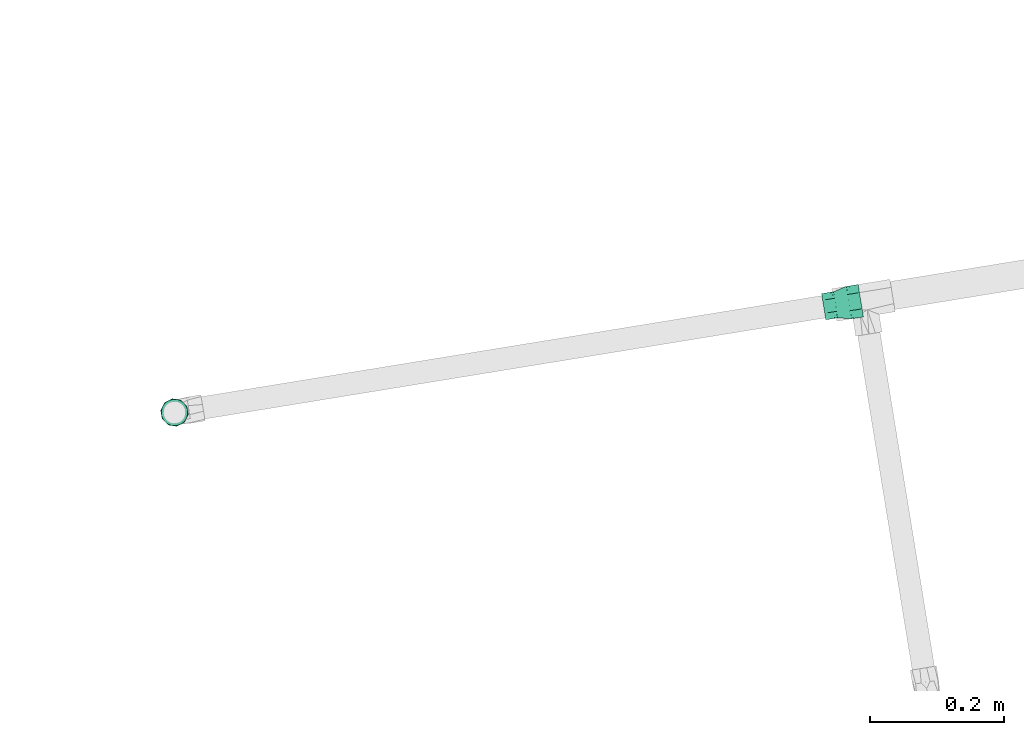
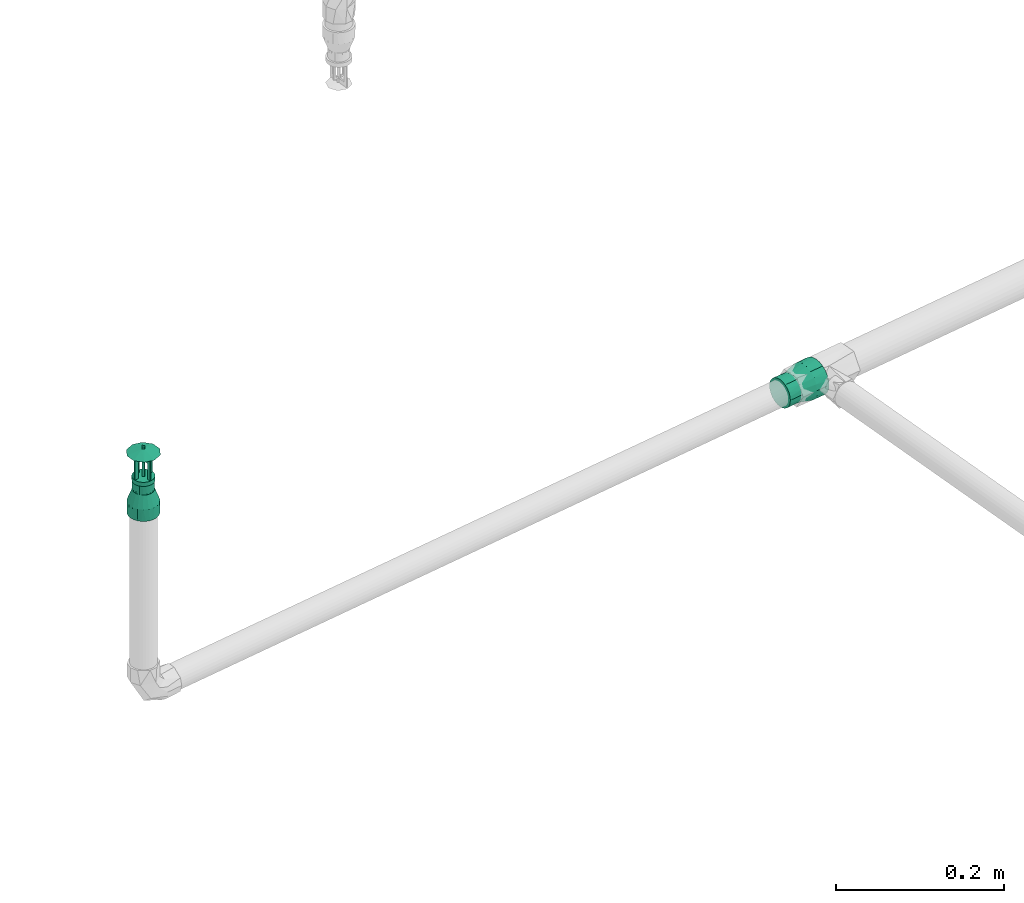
# One storey, part 31 of 46: 2 flow fittings, 1 flow terminal.
"""IFC2X3 building model written with IfcOpenShell, lengths in millimetres."""

from ifc_helpers import new_model, entity, si_unit, converted_unit, derived_unit, direction, frame, origin, origin_with_axes, place, context, subcontext, project, spatial, faceted_brep, source, transform, mapped, material, type_object, element, save


model = new_model("IFC2X3")

# Units and contexts
model_context = context("Model", 3, precision=0.01, world=origin(), true_north=direction((6.12323399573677e-17, 1.0)))
plan_context = context("Plan", 3, precision=1e-05, world=origin_with_axes())
body_context = subcontext(model_context, "Body", "Model", "MODEL_VIEW")
ifc_project = project(units=[converted_unit("PLANEANGLEUNIT", "DEGREE", entity("IfcPositiveLengthMeasure", 0.0174532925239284), si_unit("PLANEANGLEUNIT", "RADIAN"), dimensions=[0, 0, 0, 0, 0, 0, 0]), si_unit("AREAUNIT", "SQUARE_METRE"), si_unit("LENGTHUNIT", "METRE", prefix="MILLI"), si_unit("MASSUNIT", "GRAM", prefix="KILO"), si_unit("POWERUNIT", "WATT"), si_unit("PRESSUREUNIT", "PASCAL", prefix="KILO"), si_unit("FORCEUNIT", "NEWTON", prefix="KILO"), si_unit("ELECTRICVOLTAGEUNIT", "VOLT"), si_unit("ELECTRICCURRENTUNIT", "AMPERE"), si_unit("THERMODYNAMICTEMPERATUREUNIT", "DEGREE_CELSIUS"), si_unit("TIMEUNIT", "SECOND"), si_unit("VOLUMEUNIT", "CUBIC_METRE"), derived_unit("LINEARVELOCITYUNIT", [(si_unit("LENGTHUNIT", "METRE"), 1), (si_unit("TIMEUNIT", "SECOND"), -1)]), derived_unit("VOLUMETRICFLOWRATEUNIT", [(si_unit("VOLUMEUNIT", "CUBIC_METRE"), 1), (si_unit("TIMEUNIT", "SECOND"), -1)]), derived_unit("THERMALTRANSMITTANCEUNIT", [(si_unit("POWERUNIT", "WATT"), 1), (si_unit("THERMODYNAMICTEMPERATUREUNIT", "KELVIN"), -1), (si_unit("AREAUNIT", "SQUARE_METRE"), -1)]), derived_unit("SOUNDPRESSUREUNIT", [(si_unit("PRESSUREUNIT", "PASCAL"), 1)])], contexts=[model_context, plan_context])

# Site, building, storey
site_placement = place(None, frame((-3.09682673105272e-06, 1.93776733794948e-05, 0.0), z_axis=(0.0, 0.0, 1.0), x_axis=(-0.160806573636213, 0.986985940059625, 0.0)))
site = spatial("IfcSite", under=ifc_project, at=site_placement, Name="Default", CompositionType="ELEMENT")
building_placement = place(site_placement, frame((0.0, 0.0, 0.0), z_axis=(0.0, 0.0, 1.0), x_axis=(1.0, -2.77555756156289e-17, 0.0)))
building = spatial("IfcBuilding", under=site, at=building_placement, Name="Bygning (endres i Project Information)", CompositionType="ELEMENT")
storey_placement = place(building_placement, frame((0.0, 0.0, 51360.0000000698), z_axis=(0.0, 0.0, 1.0), x_axis=(1.0, -2.77555756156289e-17, 0.0)))
storey = spatial("IfcBuildingStorey", under=building, at=storey_placement, Name="H01-Nivå D+0,36", CompositionType="ELEMENT", Elevation=51360.0000000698)

# Flow fittings
ifc_material = material(Name="3320.001")
pipe_fitting_type_1 = type_object("IfcPipeFittingType", Name="RS_53_PIF_UN_Reducing-Socket-EN10241_MC_gen:RS_53_PIF_UN_Reducing-Socket-EN10241_MC_gen", PredefinedType="NOTDEFINED", material=ifc_material)
shared_shape_1 = source(origin(), body_context, "Body", "Brep", [
    faceted_brep([(0.0, 3.49405710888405, 13.0399986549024), (0.0, 6.75000000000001, 11.6913429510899), (0.0, 9.5459415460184, 9.54594154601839), (0.0, 11.6913429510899, 6.74999999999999), (0.0, 13.0399986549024, 3.49405710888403), (0.0, 13.5, 0.0), (0.0, 13.0399986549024, -3.49405710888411), (0.0, 11.6913429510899, -6.75000000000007), (0.0, 9.54594154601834, -9.54594154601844), (0.0, 6.74999999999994, -11.69134295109), (0.0, 3.49405710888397, -13.0399986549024), (0.0, 0.0, -13.5), (0.0, -3.49405710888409, -13.0399986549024), (0.0, -6.75000000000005, -11.6913429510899), (0.0, -9.54594154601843, -9.54594154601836), (0.0, -11.6913429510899, -6.74999999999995), (0.0, -13.0399986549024, -3.49405710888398), (0.0, -13.5, 0.0), (0.0, -13.0399986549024, 3.49405710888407), (0.0, -11.6913429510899, 6.75000000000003), (0.0, -9.54594154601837, 9.54594154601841), (0.0, -6.74999999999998, 11.6913429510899), (0.0, -3.49405710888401, 13.0399986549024), (0.0, 0.0, 13.5), (17.0, -4.54589529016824, -12.4935366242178), (17.0, -10.3411162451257, -8.67820919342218), (17.0, -11.5134189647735, -6.64791735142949), (17.0, -12.6857216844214, -4.61762550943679), (17.0, -6.74902240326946, -11.6919073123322), (17.0, -8.54506932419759, -10.1850582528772), (17.0, -13.0928608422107, -2.30881275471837), (17.0, -13.5, 0.0), (17.0, -2.34276817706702, -13.2951659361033), (17.0, 2.34610313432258, -13.2945778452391), (17.0, 0.00166747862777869, -13.2948718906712), (17.0, 8.54762393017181, -10.1829144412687), (17.0, 4.5490290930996, -12.4923959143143), (17.0, 6.75195505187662, -11.6902139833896), (17.0, 12.6868795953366, -4.61444320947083), (17.0, 11.5150862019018, -6.6450290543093), (17.0, 10.343292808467, -8.67561489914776), (17.0, 13.5, 0.0), (17.0, 10.3432928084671, 8.67561489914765), (17.0, 11.5150862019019, 6.64502905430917), (17.0, 12.6868795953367, 4.61444320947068), (17.0, 6.75195505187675, 11.6902139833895), (17.0, 8.54762393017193, 10.1829144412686), (17.0, 2.34610313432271, 13.2945778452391), (17.0, 4.54902909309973, 12.4923959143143), (17.0, -2.3427681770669, 13.2951659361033), (17.0, 0.00166747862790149, 13.2948718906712), (17.0, -12.6857216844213, 4.61762550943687), (17.0, -8.5450693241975, 10.1850582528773), (17.0, -13.0928608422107, 2.30881275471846), (17.0, -11.5134189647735, 6.64791735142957), (17.0, -10.3411162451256, 8.67820919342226), (17.0, -4.54589529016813, 12.4935366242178), (17.0, -6.74902240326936, 11.6919073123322), (34.0, -18.5588149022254, -6.75521201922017), (34.0, 18.5598439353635, -6.75238425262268), (34.0, -9.87413131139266, -17.104503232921), (34.0, -3.42823440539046, -19.4501853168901), (34.0, 0.00148173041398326, -19.4499240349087), (34.0, -6.65118285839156, -18.2773442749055), (34.0, -12.5015396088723, -14.9000353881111), (34.0, -15.1289479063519, -12.6955675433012), (34.0, -16.8438814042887, -9.72538978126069), (34.0, -19.1648351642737, -3.3184704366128), (34.0, 9.87673730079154, -17.1029985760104), (34.0, 15.1308820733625, -12.6932622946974), (34.0, 3.43119786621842, -19.4496627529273), (34.0, 6.65396758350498, -18.2763306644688), (34.0, 16.845363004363, -9.72282327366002), (34.0, 12.503809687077, -14.8981304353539), (34.0, 19.7500000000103, 0.0), (34.0, -19.7499999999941, 0.0), (34.0, -19.1544074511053, 3.37760600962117), (34.0, -6.65118285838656, 18.2773442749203), (34.0, -12.5015396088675, 14.9000353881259), (34.0, 3.43119786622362, 19.4496627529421), (34.0, 6.65396758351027, 18.2763306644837), (34.0, 9.87673730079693, 17.1029985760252), (34.0, 12.5038096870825, 14.8981304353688), (34.0, 15.1308820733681, 12.6932622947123), (34.0, 16.8453630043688, 9.72282327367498), (34.0, 18.5598439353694, 6.75238425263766), (34.0, -16.843881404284, 9.7253897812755), (34.0, -18.5588149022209, 6.75521201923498), (34.0, -3.42823440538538, 19.4501853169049), (34.0, 0.00148173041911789, 19.4499240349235), (34.0, -9.87413131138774, 17.1045032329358), (34.0, -15.1289479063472, 12.695567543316), (51.0, 5.11167614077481, -19.0770350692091), (51.0, 9.87500000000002, -17.1040017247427), (51.0, 13.9653589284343, -13.9653589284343), (51.0, 17.1040017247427, -9.87499999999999), (51.0, 19.0770350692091, -5.11167614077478), (51.0, 19.75, 0.0), (51.0, 19.0770350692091, 5.1116761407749), (51.0, 17.1040017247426, 9.8750000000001), (51.0, 13.9653589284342, 13.9653589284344), (51.0, 9.87499999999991, 17.1040017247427), (51.0, 5.11167614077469, 19.0770350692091), (51.0, 0.0, 19.75), (51.0, -5.11167614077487, 19.0770350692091), (51.0, -9.87500000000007, 17.1040017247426), (51.0, -13.9653589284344, 13.9653589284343), (51.0, -17.1040017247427, 9.87499999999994), (51.0, -19.0770350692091, 5.11167614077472), (51.0, -19.75, 0.0), (51.0, -19.0770350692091, -5.11167614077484), (51.0, -17.1040017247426, -9.87500000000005), (51.0, -13.9653589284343, -13.9653589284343), (51.0, -9.87499999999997, -17.1040017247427), (51.0, -5.11167614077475, -19.0770350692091), (51.0, 0.0, -19.75)], [[[0, 1, 2, 3, 4, 5, 6, 7, 8, 9, 10, 11, 12, 13, 14, 15, 16, 17, 18, 19, 20, 21, 22, 23]], [[24, 13, 12]], [[15, 14, 25]], [[15, 25, 26, 27]], [[28, 29, 13]], [[16, 27, 30]], [[30, 31, 17]], [[30, 17, 16]], [[12, 32, 24]], [[25, 14, 29]], [[11, 33, 34, 32]], [[35, 9, 8]], [[13, 29, 14]], [[24, 28, 13]], [[33, 11, 10]], [[36, 9, 37]], [[7, 38, 39, 40]], [[9, 36, 10]], [[7, 6, 38]], [[8, 40, 35]], [[33, 10, 36]], [[11, 32, 12]], [[7, 40, 8]], [[6, 41, 38]], [[15, 27, 16]], [[6, 5, 41]], [[35, 37, 9]], [[41, 5, 4]], [[3, 2, 42]], [[3, 42, 43, 44]], [[45, 46, 1]], [[44, 41, 4]], [[0, 47, 48]], [[42, 2, 46]], [[23, 49, 50, 47]], [[1, 46, 2]], [[48, 1, 0]], [[48, 45, 1]], [[3, 44, 4]], [[22, 49, 23]], [[19, 18, 51]], [[52, 21, 20]], [[17, 53, 18]], [[19, 51, 54, 55]], [[17, 31, 53]], [[56, 49, 22]], [[21, 57, 56]], [[19, 55, 20]], [[21, 56, 22]], [[20, 55, 52]], [[23, 47, 0]], [[53, 51, 18]], [[52, 57, 21]], [[58, 30, 27]], [[38, 59, 39]], [[28, 60, 29]], [[61, 32, 62]], [[63, 60, 28]], [[64, 65, 25]], [[64, 25, 29]], [[66, 58, 27]], [[66, 27, 26]], [[67, 31, 30]], [[26, 65, 66]], [[62, 32, 34]], [[25, 65, 26]], [[37, 68, 36]], [[29, 60, 64]], [[40, 69, 35]], [[34, 33, 70]], [[71, 70, 33]], [[71, 33, 36]], [[34, 70, 62]], [[72, 69, 40]], [[73, 68, 37]], [[74, 38, 41]], [[31, 67, 75]], [[39, 59, 72]], [[32, 61, 24]], [[35, 69, 73]], [[74, 59, 38]], [[58, 67, 30]], [[63, 28, 24]], [[24, 61, 63]], [[73, 37, 35]], [[36, 68, 71]], [[72, 40, 39]], [[41, 44, 74]], [[31, 76, 53]], [[57, 77, 56]], [[55, 78, 52]], [[47, 79, 80]], [[45, 81, 82]], [[46, 83, 42]], [[42, 83, 84]], [[43, 85, 44]], [[74, 44, 85]], [[46, 82, 83]], [[84, 85, 43]], [[51, 86, 54]], [[87, 51, 53]], [[81, 48, 80]], [[48, 81, 45]], [[49, 88, 89]], [[77, 57, 90]], [[56, 88, 49]], [[50, 79, 47]], [[86, 51, 87]], [[78, 55, 91]], [[75, 76, 31]], [[47, 80, 48]], [[77, 88, 56]], [[49, 89, 50]], [[86, 91, 54]], [[53, 76, 87]], [[45, 82, 46]], [[90, 52, 78]], [[42, 84, 43]], [[52, 90, 57]], [[50, 89, 79]], [[54, 91, 55]], [[92, 93, 94, 95, 96, 97, 98, 99, 100, 101, 102, 103, 104, 105, 106, 107, 108, 109, 110, 111, 112, 113, 114, 115]], [[74, 97, 96]], [[95, 94, 69]], [[95, 69, 72, 59]], [[68, 73, 93]], [[59, 74, 96]], [[92, 70, 71]], [[69, 94, 73]], [[115, 61, 62, 70]], [[93, 73, 94]], [[61, 115, 114]], [[111, 65, 112]], [[63, 113, 60]], [[95, 59, 96]], [[71, 68, 93]], [[64, 60, 113]], [[109, 75, 67]], [[113, 63, 114]], [[112, 65, 64]], [[61, 114, 63]], [[71, 93, 92]], [[109, 67, 110]], [[58, 111, 110]], [[110, 67, 58]], [[64, 113, 112]], [[66, 65, 111, 58]], [[115, 70, 92]], [[77, 105, 104]], [[107, 106, 91]], [[107, 91, 86, 87]], [[90, 78, 105]], [[108, 87, 76]], [[76, 109, 108]], [[107, 87, 108]], [[104, 88, 77]], [[91, 106, 78]], [[103, 79, 89, 88]], [[77, 90, 105]], [[105, 78, 106]], [[76, 75, 109]], [[79, 103, 102]], [[80, 101, 81]], [[99, 85, 84, 83]], [[101, 80, 102]], [[99, 98, 85]], [[100, 83, 82]], [[79, 102, 80]], [[99, 83, 100]], [[82, 81, 101]], [[98, 74, 85]], [[98, 97, 74]], [[103, 88, 104]], [[82, 101, 100]]]),
])
flow_fitting_1_placement = place(storey_placement, frame((1003788.36764383, -343069.023010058, 3770.81211897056), z_axis=(2.77555756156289e-17, 1.0, 0.0), x_axis=(0.0, 0.0, -1.0)))
element("IfcFlowFitting", 1, at=flow_fitting_1_placement, inside=storey, type_object=pipe_fitting_type_1, material=ifc_material, Name="RS_53_PIF_UN_Reducing-Socket-EN10241_MC_gen:RS_53_PIF_UN_Reducing-Socket-EN10241_MC_gen", ObjectType="RS_53_PIF_UN_Reducing-Socket-EN10241_MC_gen:RS_53_PIF_UN_Reducing-Socket-EN10241_MC_gen", context=body_context, shape_type="MappedRepresentation", body=[
    mapped(shared_shape_1, transform((0.0, 0.0, 0.0), scale=1.0)),
])
pipe_fitting_type_2 = type_object("IfcPipeFittingType", Name="RS_53_PIF_UN_Reducing-Socket-EN10241_MC_gen:RS_53_PIF_UN_Reducing-Socket-EN10241_MC_gen", PredefinedType="NOTDEFINED", material=ifc_material)
shared_shape_2 = source(origin(), body_context, "Body", "Brep", [
    faceted_brep([(0.0, 5.11167614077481, 19.0770350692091), (0.0, 9.87500000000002, 17.1040017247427), (0.0, 13.9653589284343, 13.9653589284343), (0.0, 17.1040017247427, 9.87499999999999), (0.0, 19.0770350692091, 5.11167614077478), (0.0, 19.75, 0.0), (0.0, 19.0770350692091, -5.1116761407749), (0.0, 17.1040017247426, -9.8750000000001), (0.0, 13.9653589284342, -13.9653589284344), (0.0, 9.87499999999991, -17.1040017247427), (0.0, 5.11167614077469, -19.0770350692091), (0.0, 0.0, -19.75), (0.0, -5.11167614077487, -19.0770350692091), (0.0, -9.87500000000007, -17.1040017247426), (0.0, -13.9653589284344, -13.9653589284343), (0.0, -17.1040017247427, -9.87499999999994), (0.0, -19.0770350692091, -5.11167614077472), (0.0, -19.75, 0.0), (0.0, -19.0770350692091, 5.11167614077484), (0.0, -17.1040017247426, 9.87500000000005), (0.0, -13.9653589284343, 13.9653589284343), (0.0, -9.87499999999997, 17.1040017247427), (0.0, -5.11167614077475, 19.0770350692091), (0.0, 0.0, 19.75), (18.6666666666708, -6.65147917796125, -18.2772448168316), (18.6666666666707, -15.1290644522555, -12.6954286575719), (18.6666666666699, -16.8439551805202, -9.72527774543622), (18.6666666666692, -18.5588459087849, -6.75512683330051), (18.6666666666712, -9.87436684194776, -17.1043672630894), (18.6666666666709, -12.5017156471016, -14.8998979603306), (18.6666666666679, -19.1544229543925, -3.37756341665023), (18.6666666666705, -3.42859151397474, -19.4501223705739), (18.6666666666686, 3.43075149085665, -19.4497414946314), (18.6666666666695, 0.00107998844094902, -19.4499319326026), (18.6666666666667, -19.75, 0.0), (18.6666666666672, 6.65350888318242, -18.2765060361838), (18.6666666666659, 9.87626627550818, -17.1032705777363), (18.6666666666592, 18.5595959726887, -6.75306577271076), (18.6666666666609, 16.8450350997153, -9.72340711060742), (18.6666666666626, 15.1304742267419, -12.6937484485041), (18.6666666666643, 12.503370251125, -14.8985095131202), (18.6666666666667, 19.75, 0.0), (18.6666666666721, 15.1304742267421, 12.6937484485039), (18.6666666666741, 16.8450350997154, 9.72340711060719), (18.6666666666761, 18.5595959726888, 6.7530657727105), (18.6666666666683, 9.8762662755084, 17.1032705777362), (18.6666666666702, 12.5033702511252, 14.89850951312), (18.6666666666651, 3.43075149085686, 19.4497414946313), (18.6666666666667, 6.65350888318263, 18.2765060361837), (18.6666666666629, -3.42859151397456, 19.450122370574), (18.666666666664, 0.00107998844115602, 19.4499319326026), (18.6666666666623, -12.5017156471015, 14.8998979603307), (18.6666666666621, -9.87436684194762, 17.1043672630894), (18.6666666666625, -6.65147917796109, 18.2772448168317), (18.6666666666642, -18.5588459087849, 6.75512683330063), (18.6666666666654, -19.1544229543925, 3.37756341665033), (18.6666666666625, -15.1290644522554, 12.695428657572), (18.6666666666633, -16.8439551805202, 9.72527774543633), (37.3333333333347, -23.7125607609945, -4.46565710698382), (37.3333333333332, 4.25560674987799, -24.127573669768), (37.3333333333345, 0.00110376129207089, -24.1277682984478), (37.3333333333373, -15.5085607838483, -18.483337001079), (37.3333333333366, -20.8950763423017, -12.0642027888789), (37.3333333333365, -8.25137606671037, -22.6729794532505), (37.3333333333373, -12.2493529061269, -21.2179959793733), (37.3333333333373, -18.7677686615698, -15.7486780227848), (37.3333333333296, 12.2512941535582, -21.2168751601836), (37.3333333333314, 8.2534504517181, -22.6722244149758), (37.3333333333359, -23.0223840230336, -8.37972755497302), (37.3333333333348, -23.7611920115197, -4.18986377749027), (37.3333333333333, -24.4999999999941, 0.0), (37.3333333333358, -4.25339922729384, -24.1279629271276), (37.3333333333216, 23.0231506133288, -8.37762113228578), (37.3333333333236, 20.8961800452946, -12.0622909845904), (37.3333333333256, 18.7692094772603, -15.7469608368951), (37.3333333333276, 15.5102518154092, -18.4819179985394), (37.3333333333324, 24.5000000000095, 0.0), (37.3333333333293, -18.767768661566, 15.7486780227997), (37.3333333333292, -15.5085607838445, 18.4833370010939), (37.3333333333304, -4.25339922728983, 24.1279629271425), (37.3333333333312, -23.0223840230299, 8.37972755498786), (37.3333333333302, -20.8950763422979, 12.0642027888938), (37.3333333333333, 4.2556067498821, 24.1275736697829), (37.3333333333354, 8.25345045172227, 22.6722244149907), (37.3333333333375, 12.2512941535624, 21.2168751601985), (37.3333333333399, 15.5102518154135, 18.4819179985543), (37.3333333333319, -23.7611920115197, 4.18986377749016), (37.3333333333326, -23.7125607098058, 4.46565739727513), (37.3333333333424, 18.7692094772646, 15.74696083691), (37.3333333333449, 20.896180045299, 12.0622909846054), (37.3333333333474, 23.0231506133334, 8.37762113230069), (37.3333333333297, -8.25137606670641, 22.6729794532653), (37.333333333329, -12.249352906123, 21.2179959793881), (37.3333333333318, 0.00110376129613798, 24.1277682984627), (56.0, 0.0, -24.5), (56.0, 6.34106660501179, -23.6651827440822), (56.0, 12.25, -21.2176223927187), (56.0, 17.3241161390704, -17.3241161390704), (56.0, 21.2176223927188, -12.25), (56.0, 23.6651827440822, -6.34106660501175), (56.0, 24.5, 0.0), (56.0, 23.6651827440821, 6.34106660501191), (56.0, 21.2176223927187, 12.2500000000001), (56.0, 17.3241161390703, 17.3241161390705), (56.0, 12.2499999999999, 21.2176223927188), (56.0, 6.34106660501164, 23.6651827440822), (56.0, 0.0, 24.5), (56.0, -6.34106660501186, 23.6651827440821), (56.0, -12.2500000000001, 21.2176223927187), (56.0, -17.3241161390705, 17.3241161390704), (56.0, -21.2176223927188, 12.2499999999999), (56.0, -23.6651827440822, 6.34106660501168), (56.0, -24.5, 0.0), (56.0, -23.6651827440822, -6.34106660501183), (56.0, -21.2176223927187, -12.2500000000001), (56.0, -17.3241161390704, -17.3241161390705), (56.0, -12.25, -21.2176223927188), (56.0, -6.34106660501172, -23.6651827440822)], [[[0, 1, 2, 3, 4, 5, 6, 7, 8, 9, 10, 11, 12, 13, 14, 15, 16, 17, 18, 19, 20, 21, 22, 23]], [[24, 13, 12]], [[15, 14, 25]], [[15, 25, 26, 27]], [[28, 29, 13]], [[16, 27, 30]], [[30, 17, 16]], [[15, 27, 16]], [[12, 31, 24]], [[25, 14, 29]], [[11, 32, 33, 31]], [[24, 28, 13]], [[13, 29, 14]], [[30, 34, 17]], [[32, 11, 10]], [[35, 9, 36]], [[7, 37, 38, 39]], [[9, 35, 10]], [[7, 6, 37]], [[8, 39, 40]], [[32, 10, 35]], [[7, 39, 8]], [[40, 36, 9]], [[6, 41, 37]], [[6, 5, 41]], [[11, 31, 12]], [[40, 9, 8]], [[41, 5, 4]], [[3, 2, 42]], [[3, 42, 43, 44]], [[45, 46, 1]], [[44, 41, 4]], [[0, 47, 48]], [[42, 2, 46]], [[23, 49, 50, 47]], [[1, 46, 2]], [[23, 22, 49]], [[51, 52, 21]], [[48, 1, 0]], [[21, 52, 53]], [[19, 18, 54]], [[21, 53, 22]], [[23, 47, 0]], [[3, 44, 4]], [[55, 17, 34]], [[53, 49, 22]], [[19, 56, 20]], [[20, 56, 51]], [[51, 21, 20]], [[19, 54, 57, 56]], [[17, 55, 18]], [[48, 45, 1]], [[55, 54, 18]], [[27, 58, 30]], [[33, 59, 60]], [[61, 25, 29]], [[62, 27, 26]], [[28, 63, 64]], [[25, 61, 65]], [[35, 66, 67]], [[27, 62, 68]], [[36, 66, 35]], [[30, 58, 69, 70]], [[26, 65, 62]], [[29, 64, 61]], [[29, 28, 64]], [[26, 25, 65]], [[24, 71, 63]], [[60, 71, 31]], [[59, 33, 32]], [[67, 59, 32]], [[37, 72, 38]], [[73, 74, 39]], [[75, 36, 40]], [[75, 66, 36]], [[76, 37, 41]], [[27, 68, 58]], [[38, 72, 73]], [[63, 28, 24]], [[40, 74, 75]], [[76, 72, 37]], [[30, 70, 34]], [[67, 32, 35]], [[24, 31, 71]], [[73, 39, 38]], [[60, 31, 33]], [[39, 74, 40]], [[41, 44, 76]], [[56, 77, 78]], [[79, 49, 53]], [[54, 80, 81]], [[47, 82, 83]], [[45, 84, 85]], [[55, 70, 86, 87]], [[42, 88, 89]], [[87, 54, 55]], [[76, 44, 90]], [[43, 89, 90]], [[85, 88, 46]], [[52, 91, 53]], [[77, 57, 81]], [[48, 83, 84]], [[92, 51, 78]], [[49, 79, 93]], [[92, 91, 52]], [[48, 84, 45]], [[57, 54, 81]], [[50, 82, 47]], [[51, 56, 78]], [[70, 55, 34]], [[45, 85, 46]], [[53, 91, 79]], [[42, 89, 43]], [[57, 77, 56]], [[54, 87, 80]], [[47, 83, 48]], [[92, 52, 51]], [[49, 93, 50]], [[43, 90, 44]], [[50, 93, 82]], [[46, 88, 42]], [[94, 95, 96, 97, 98, 99, 100, 101, 102, 103, 104, 105, 106, 107, 108, 109, 110, 111, 112, 113, 114, 115, 116, 117]], [[76, 100, 99]], [[98, 97, 74]], [[98, 74, 73, 72]], [[66, 75, 96]], [[72, 76, 99]], [[95, 59, 67]], [[74, 97, 75]], [[94, 71, 60, 59]], [[96, 75, 97]], [[71, 94, 117]], [[94, 59, 95]], [[112, 69, 113]], [[63, 116, 64]], [[67, 96, 95]], [[61, 116, 115]], [[70, 69, 112]], [[98, 72, 99]], [[116, 63, 117]], [[115, 65, 61]], [[71, 117, 63]], [[67, 66, 96]], [[114, 65, 115]], [[68, 114, 113]], [[113, 69, 58, 68]], [[61, 64, 116]], [[62, 65, 114, 68]], [[91, 108, 107]], [[110, 109, 77]], [[110, 77, 81, 80]], [[92, 78, 108]], [[111, 80, 87, 86]], [[86, 112, 111]], [[110, 80, 111]], [[107, 79, 91]], [[77, 109, 78]], [[106, 82, 93, 79]], [[91, 92, 108]], [[108, 78, 109]], [[86, 70, 112]], [[82, 106, 105]], [[83, 104, 84]], [[102, 90, 89, 88]], [[104, 83, 105]], [[102, 101, 90]], [[103, 88, 85]], [[82, 105, 83]], [[102, 88, 103]], [[85, 84, 104]], [[101, 76, 90]], [[101, 100, 76]], [[106, 79, 107]], [[85, 104, 103]]]),
])
flow_fitting_2_placement = place(storey_placement, frame((1003788.36764383, -344049.476565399, 3458.79999913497), z_axis=(0.0, 0.0, 1.0), x_axis=(-2.77555756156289e-17, -1.0, 0.0)))
element("IfcFlowFitting", 2, at=flow_fitting_2_placement, inside=storey, type_object=pipe_fitting_type_2, material=ifc_material, Name="RS_53_PIF_UN_Reducing-Socket-EN10241_MC_gen:RS_53_PIF_UN_Reducing-Socket-EN10241_MC_gen", ObjectType="RS_53_PIF_UN_Reducing-Socket-EN10241_MC_gen:RS_53_PIF_UN_Reducing-Socket-EN10241_MC_gen", context=body_context, shape_type="MappedRepresentation", body=[
    mapped(shared_shape_2, transform((0.0, 0.0, 0.0), scale=1.0)),
])

# Flow terminal
fire_suppression_terminal_type = type_object("IfcFireSuppressionTerminalType", Name="SU-15-K80-68DGR-STD:SU-15-K80-68DGR-STD", PredefinedType="NOTDEFINED", material=ifc_material)
shared_shape_3 = source(origin(), body_context, "Body", "Brep", [
    faceted_brep([(-2.5, 0.0, 62.0), (0.0, -2.5, 62.0), (2.5, 0.0, 62.0), (0.0, 2.5, 62.0), (0.0, 2.5, 59.0), (2.5, 0.0, 59.0), (0.0, -2.5, 59.0), (-2.5, 0.0, 59.0)], [[[0, 1, 2, 3]], [[4, 5, 6, 7]], [[3, 4, 7, 0]], [[2, 5, 4, 3]], [[1, 6, 5, 2]], [[0, 7, 6, 1]]]),
    faceted_brep([(1.0, 13.5, 47.0), (1.0, -13.5, 47.0), (1.0, -13.5, 19.0), (1.0, -8.5, 19.0), (1.0, -8.5, 42.0), (1.0, 8.5, 42.0), (1.0, 8.5, 19.0), (1.0, 13.5, 19.0), (-1.0, 13.5, 47.0), (-1.0, 13.5, 19.0), (-1.0, 8.5, 19.0), (-1.0, 8.5, 42.0), (-1.0, -8.5, 42.0), (-1.0, -8.5, 19.0), (-1.0, -13.5, 19.0), (-1.0, -13.5, 47.0)], [[[0, 1, 2, 3, 4, 5, 6, 7]], [[8, 9, 10, 11, 12, 13, 14, 15]], [[7, 9, 8, 0]], [[6, 10, 9, 7]], [[5, 11, 10, 6]], [[4, 12, 11, 5]], [[3, 13, 12, 4]], [[2, 14, 13, 3]], [[1, 15, 14, 2]], [[0, 8, 15, 1]]]),
    faceted_brep([(-13.5, -1.0, 47.0), (-13.5, -1.0, 19.0), (-8.5, -1.0, 19.0), (-8.5, -1.0, 42.0), (8.5, -1.0, 42.0), (8.5, -1.0, 19.0), (13.5, -1.0, 19.0), (13.5, -1.0, 47.0), (-13.5, 1.0, 47.0), (13.5, 1.0, 47.0), (13.5, 1.0, 19.0), (8.5, 1.0, 19.0), (8.5, 1.0, 42.0), (-8.5, 1.0, 42.0), (-8.5, 1.0, 19.0), (-13.5, 1.0, 19.0)], [[[0, 1, 2, 3, 4, 5, 6, 7]], [[8, 9, 10, 11, 12, 13, 14, 15]], [[7, 9, 8, 0]], [[6, 10, 9, 7]], [[5, 11, 10, 6]], [[4, 12, 11, 5]], [[3, 13, 12, 4]], [[2, 14, 13, 3]], [[1, 15, 14, 2]], [[0, 8, 15, 1]]]),
    faceted_brep([(2.5, 0.0, 59.0), (0.0, 2.5, 59.0), (-2.5, 0.0, 59.0), (0.0, -2.5, 59.0), (-6.48935688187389, -19.9721868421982, 53.0), (-16.9893568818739, -12.3434902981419, 53.0), (-21.0, 0.0, 53.0), (-16.9893568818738, 12.343490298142, 53.0), (-6.48935688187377, 19.9721868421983, 53.0), (6.48935688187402, 19.9721868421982, 53.0), (16.989356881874, 12.3434902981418, 53.0), (21.0, 0.0, 53.0), (16.9893568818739, -12.3434902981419, 53.0), (6.4893568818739, -19.9721868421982, 53.0)], [[[0, 1, 2, 3]], [[4, 5, 6, 7, 8, 9, 10, 11, 12, 13]], [[10, 0, 11]], [[10, 9, 1]], [[1, 0, 10]], [[7, 2, 1]], [[8, 7, 1]], [[6, 2, 7]], [[9, 8, 1]], [[5, 2, 6]], [[5, 4, 3]], [[3, 2, 5]], [[12, 0, 3]], [[13, 12, 3]], [[11, 0, 12]], [[4, 13, 3]]]),
    faceted_brep([(-2.5, 0.0, 53.0), (0.0, -2.5, 53.0), (2.5, 0.0, 53.0), (0.0, 2.5, 53.0), (0.0, 2.5, 19.0), (2.5, 0.0, 19.0), (0.0, -2.5, 19.0), (-2.5, 0.0, 19.0)], [[[0, 1, 2, 3]], [[4, 5, 6, 7]], [[3, 4, 7, 0]], [[2, 5, 4, 3]], [[1, 6, 5, 2]], [[0, 7, 6, 1]]]),
    faceted_brep([(7.0, 12.1243556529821, 19.0), (3.62346663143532, 13.5229615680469, 19.0), (0.0, 14.0, 19.0), (-3.62346663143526, 13.522961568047, 19.0), (-7.0, 12.1243556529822, 19.0), (-9.89949493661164, 9.89949493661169, 19.0), (-12.1243556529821, 7.0, 19.0), (-13.5229615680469, 3.62346663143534, 19.0), (-14.0, 0.0, 19.0), (-13.5229615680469, -3.62346663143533, 19.0), (-12.1243556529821, -7.0, 19.0), (-9.89949493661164, -9.89949493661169, 19.0), (-7.0, -12.1243556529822, 19.0), (-3.62346663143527, -13.522961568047, 19.0), (0.0, -14.0, 19.0), (3.62346663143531, -13.522961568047, 19.0), (7.0, -12.1243556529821, 19.0), (9.89949493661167, -9.89949493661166, 19.0), (12.1243556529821, -7.0, 19.0), (13.522961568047, -3.62346663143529, 19.0), (14.0, 0.0, 19.0), (13.522961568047, 3.62346663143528, 19.0), (12.1243556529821, 7.0, 19.0), (9.89949493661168, 9.89949493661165, 19.0), (9.89949493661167, -9.89949493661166, 13.0), (7.0, -12.1243556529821, 13.0), (3.62346663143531, -13.522961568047, 13.0), (0.0, -14.0, 13.0), (-3.62346663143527, -13.522961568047, 13.0), (-7.0, -12.1243556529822, 13.0), (-9.89949493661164, -9.89949493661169, 13.0), (-12.1243556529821, -7.0, 13.0), (-13.5229615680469, -3.62346663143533, 13.0), (-14.0, 0.0, 13.0), (-13.5229615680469, 3.62346663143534, 13.0), (-12.1243556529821, 7.0, 13.0), (-9.89949493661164, 9.89949493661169, 13.0), (-7.0, 12.1243556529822, 13.0), (-3.62346663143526, 13.522961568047, 13.0), (0.0, 14.0, 13.0), (3.62346663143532, 13.5229615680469, 13.0), (7.0, 12.1243556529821, 13.0), (9.89949493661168, 9.89949493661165, 13.0), (12.1243556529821, 7.0, 13.0), (13.522961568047, 3.62346663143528, 13.0), (14.0, 0.0, 13.0), (13.522961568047, -3.62346663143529, 13.0), (12.1243556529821, -7.0, 13.0)], [[[0, 1, 2, 3, 4, 5, 6, 7, 8, 9, 10, 11, 12, 13, 14, 15, 16, 17, 18, 19, 20, 21, 22, 23]], [[24, 25, 26, 27, 28, 29, 30, 31, 32, 33, 34, 35, 36, 37, 38, 39, 40, 41, 42, 43, 44, 45, 46, 47]], [[33, 8, 7, 34]], [[34, 7, 6, 35]], [[37, 36, 5, 4]], [[5, 36, 35, 6]], [[38, 37, 4, 3]], [[38, 3, 2, 39]], [[39, 2, 1, 40]], [[40, 1, 0, 41]], [[43, 42, 23, 22]], [[23, 42, 41, 0]], [[44, 43, 22, 21]], [[44, 21, 20, 45]], [[45, 20, 19, 46]], [[46, 19, 18, 47]], [[25, 24, 17, 16]], [[17, 24, 47, 18]], [[26, 25, 16, 15]], [[26, 15, 14, 27]], [[27, 14, 13, 28]], [[28, 13, 12, 29]], [[31, 30, 11, 10]], [[11, 30, 29, 12]], [[32, 31, 10, 9]], [[32, 9, 8, 33]]]),
    faceted_brep([(3.75000000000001, 6.49519052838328, 13.0), (1.94114283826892, 7.24444369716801, 13.0), (0.0, 7.5, 13.0), (-1.94114283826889, 7.24444369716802, 13.0), (-3.74999999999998, 6.4951905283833, 13.0), (-5.30330085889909, 5.30330085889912, 13.0), (-6.49519052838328, 3.75000000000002, 13.0), (-7.244443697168, 1.94114283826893, 13.0), (-7.5, 0.0, 13.0), (-7.24444369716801, -1.94114283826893, 13.0), (-6.49519052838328, -3.75000000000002, 13.0), (-5.3033008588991, -5.30330085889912, 13.0), (-3.74999999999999, -6.4951905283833, 13.0), (-1.94114283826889, -7.24444369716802, 13.0), (0.0, -7.5, 13.0), (1.94114283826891, -7.24444369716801, 13.0), (3.75000000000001, -6.49519052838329, 13.0), (5.30330085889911, -5.3033008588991, 13.0), (6.49519052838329, -3.75, 13.0), (7.24444369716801, -1.9411428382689, 13.0), (7.5, 0.0, 13.0), (7.24444369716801, 1.9411428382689, 13.0), (6.49519052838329, 3.75, 13.0), (5.30330085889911, 5.3033008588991, 13.0), (5.30330085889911, -5.3033008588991, 0.0), (3.75000000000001, -6.49519052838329, 0.0), (1.94114283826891, -7.24444369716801, 0.0), (0.0, -7.5, 0.0), (-1.94114283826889, -7.24444369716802, 0.0), (-3.74999999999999, -6.4951905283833, 0.0), (-5.3033008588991, -5.30330085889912, 0.0), (-6.49519052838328, -3.75000000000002, 0.0), (-7.24444369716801, -1.94114283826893, 0.0), (-7.5, 0.0, 0.0), (-7.244443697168, 1.94114283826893, 0.0), (-6.49519052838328, 3.75000000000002, 0.0), (-5.30330085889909, 5.30330085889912, 0.0), (-3.74999999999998, 6.4951905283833, 0.0), (-1.94114283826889, 7.24444369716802, 0.0), (0.0, 7.5, 0.0), (1.94114283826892, 7.24444369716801, 0.0), (3.75000000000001, 6.49519052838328, 0.0), (5.30330085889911, 5.3033008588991, 0.0), (6.49519052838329, 3.75, 0.0), (7.24444369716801, 1.9411428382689, 0.0), (7.5, 0.0, 0.0), (7.24444369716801, -1.9411428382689, 0.0), (6.49519052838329, -3.75, 0.0)], [[[0, 1, 2, 3, 4, 5, 6, 7, 8, 9, 10, 11, 12, 13, 14, 15, 16, 17, 18, 19, 20, 21, 22, 23]], [[24, 25, 26, 27, 28, 29, 30, 31, 32, 33, 34, 35, 36, 37, 38, 39, 40, 41, 42, 43, 44, 45, 46, 47]], [[33, 8, 7, 34]], [[34, 7, 6, 35]], [[37, 36, 5, 4]], [[5, 36, 35, 6]], [[38, 37, 4, 3]], [[38, 3, 2, 39]], [[39, 2, 1, 40]], [[40, 1, 0, 41]], [[43, 42, 23, 22]], [[23, 42, 41, 0]], [[44, 43, 22, 21]], [[44, 21, 20, 45]], [[45, 20, 19, 46]], [[46, 19, 18, 47]], [[25, 24, 17, 16]], [[17, 24, 47, 18]], [[26, 25, 16, 15]], [[26, 15, 14, 27]], [[27, 14, 13, 28]], [[28, 13, 12, 29]], [[31, 30, 11, 10]], [[11, 30, 29, 12]], [[32, 31, 10, 9]], [[32, 9, 8, 33]]]),
])
flow_terminal_placement = place(storey_placement, frame((1003788.36764383, -343069.023010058, 3753.81211897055), z_axis=(0.0, 0.0, 1.0), x_axis=(-1.0, 2.77555756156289e-17, 0.0)))
element("IfcFlowTerminal", 3, at=flow_terminal_placement, inside=storey, type_object=fire_suppression_terminal_type, material=ifc_material, Name="SU-15-K80-68DGR-STD:SU-15-K80-68DGR-STD", ObjectType="SU-15-K80-68DGR-STD:SU-15-K80-68DGR-STD", context=body_context, shape_type="MappedRepresentation", body=[
    mapped(shared_shape_3, transform((0.0, 0.0, 0.0), scale=1.0)),
])

save(model, "model.ifc")
